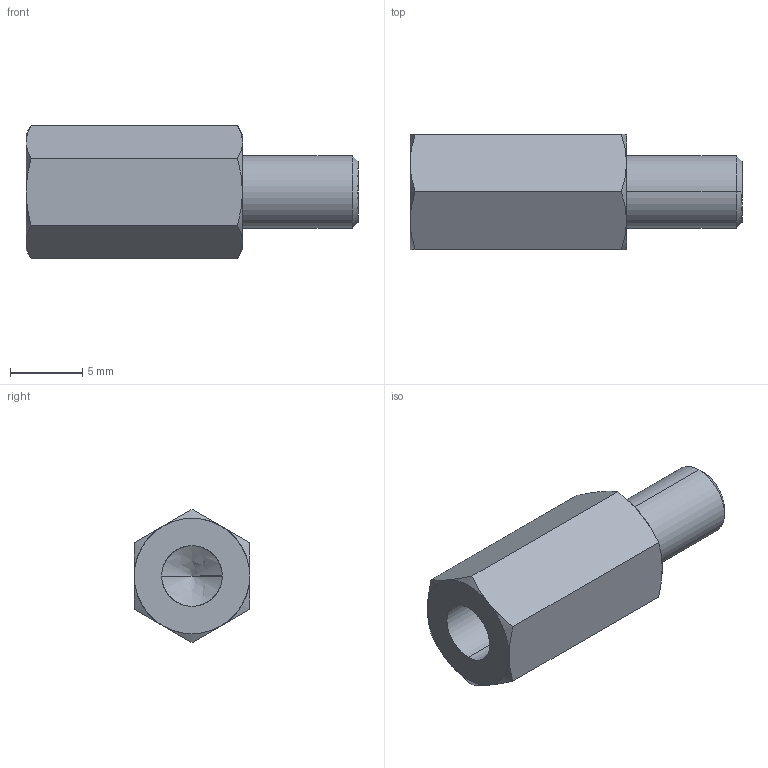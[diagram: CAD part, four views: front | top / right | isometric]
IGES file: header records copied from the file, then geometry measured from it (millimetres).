
Start section: SolidWorks IGES file using analytic representation for surfaces
Global section: file name: C:\Users\render1\Desktop\P0185_IGES\P0185.05-15.igs; native system: SolidWorks 2009; preprocessor: SolidWorks 2009; author: render1; date: 130627.112431; units: millimetre
Bounding box: 23 x 8 x 9.24 mm (x, y, z)
Surface area: 750.8 mm2 (no closed solid volume)
Topology: 0 solids, 0 shells, 29 faces, 324 edges, 322 vertices
Faces by surface type: revolution 20, bspline 9
